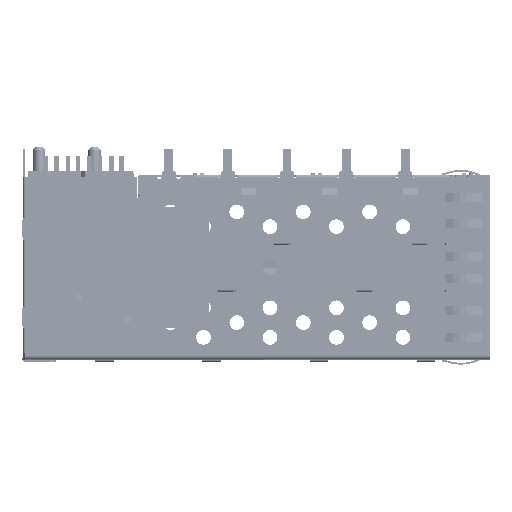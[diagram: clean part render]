
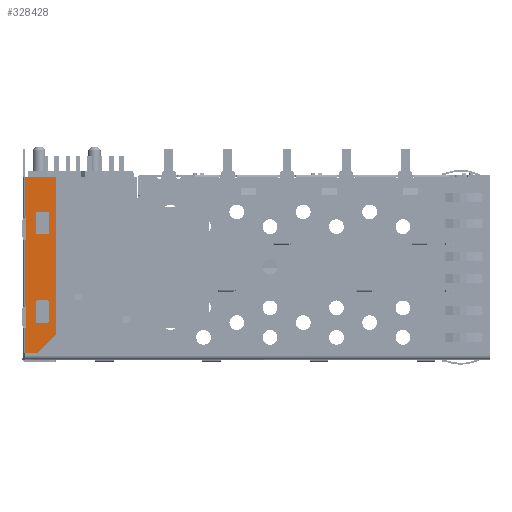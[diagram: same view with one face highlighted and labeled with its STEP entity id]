
A CAD part, left-side view. The second image highlights one B-rep face of the part: STEP entity #328428.
In plain terms, the highlighted planar face has unit normal (-1, 0, 0).
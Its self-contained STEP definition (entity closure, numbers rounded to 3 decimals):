
#43225=DIRECTION('',(0.,-1.,0.));
#43226=VECTOR('',#43225,4.25);
#43227=CARTESIAN_POINT('',(0.45,4.25,-3.8));
#43228=LINE('',#43227,#43226);
#43322=DIRECTION('',(0.,0.,1.));
#43323=VECTOR('',#43322,2.7);
#43324=CARTESIAN_POINT('',(0.45,1.,-23.4));
#43325=LINE('',#43324,#43323);
#43330=CARTESIAN_POINT('',(0.45,2.65,-20.7));
#43331=DIRECTION('',(1.,0.,0.));
#43332=DIRECTION('',(0.,1.,0.));
#43333=AXIS2_PLACEMENT_3D('',#43330,#43331,#43332);
#43335=CARTESIAN_POINT('',(0.45,2.65,-23.4));
#43336=DIRECTION('',(1.,0.,0.));
#43337=DIRECTION('',(0.,0.,-1.));
#43338=AXIS2_PLACEMENT_3D('',#43335,#43336,#43337);
#43340=CARTESIAN_POINT('',(0.45,1.15,-23.4));
#43341=DIRECTION('',(1.,0.,0.));
#43342=DIRECTION('',(0.,-1.,0.));
#43343=AXIS2_PLACEMENT_3D('',#43340,#43341,#43342);
#43345=CARTESIAN_POINT('',(0.45,1.15,-20.7));
#43346=DIRECTION('',(1.,0.,0.));
#43347=DIRECTION('',(0.,0.,1.));
#43348=AXIS2_PLACEMENT_3D('',#43345,#43346,#43347);
#43350=CARTESIAN_POINT('',(0.45,2.65,-11.4));
#43351=DIRECTION('',(1.,0.,0.));
#43352=DIRECTION('',(0.,0.,-1.));
#43353=AXIS2_PLACEMENT_3D('',#43350,#43351,#43352);
#43355=CARTESIAN_POINT('',(0.45,1.15,-11.4));
#43356=DIRECTION('',(1.,0.,0.));
#43357=DIRECTION('',(0.,-1.,0.));
#43358=AXIS2_PLACEMENT_3D('',#43355,#43356,#43357);
#43360=CARTESIAN_POINT('',(0.45,1.15,-8.7));
#43361=DIRECTION('',(1.,0.,0.));
#43362=DIRECTION('',(0.,0.,1.));
#43363=AXIS2_PLACEMENT_3D('',#43360,#43361,#43362);
#43365=CARTESIAN_POINT('',(0.45,2.65,-8.7));
#43366=DIRECTION('',(1.,0.,0.));
#43367=DIRECTION('',(0.,1.,0.));
#43368=AXIS2_PLACEMENT_3D('',#43365,#43366,#43367);
#43370=DIRECTION('',(0.,-0.707,0.707));
#43371=VECTOR('',#43370,3.536);
#43372=CARTESIAN_POINT('',(0.45,2.5,-27.6));
#43373=LINE('',#43372,#43371);
#43374=DIRECTION('',(0.,1.,0.));
#43375=VECTOR('',#43374,0.2);
#43376=CARTESIAN_POINT('',(0.45,4.05,-24.3));
#43377=LINE('',#43376,#43375);
#43390=DIRECTION('',(0.,0.,-1.));
#43391=VECTOR('',#43390,2.7);
#43392=CARTESIAN_POINT('',(0.45,2.8,-20.7));
#43393=LINE('',#43392,#43391);
#43406=DIRECTION('',(0.,-1.,0.));
#43407=VECTOR('',#43406,1.5);
#43408=CARTESIAN_POINT('',(0.45,2.65,-23.55));
#43409=LINE('',#43408,#43407);
#43414=DIRECTION('',(0.,1.,0.));
#43415=VECTOR('',#43414,1.5);
#43416=CARTESIAN_POINT('',(0.45,1.15,-20.55));
#43417=LINE('',#43416,#43415);
#43438=DIRECTION('',(0.,-1.,0.));
#43439=VECTOR('',#43438,1.5);
#43440=CARTESIAN_POINT('',(0.45,2.65,-11.55));
#43441=LINE('',#43440,#43439);
#43450=DIRECTION('',(0.,0.,1.));
#43451=VECTOR('',#43450,2.7);
#43452=CARTESIAN_POINT('',(0.45,1.,-11.4));
#43453=LINE('',#43452,#43451);
#43470=DIRECTION('',(0.,1.,0.));
#43471=VECTOR('',#43470,1.5);
#43472=CARTESIAN_POINT('',(0.45,1.15,-8.55));
#43473=LINE('',#43472,#43471);
#43486=DIRECTION('',(0.,0.,-1.));
#43487=VECTOR('',#43486,2.7);
#43488=CARTESIAN_POINT('',(0.45,2.8,-8.7));
#43489=LINE('',#43488,#43487);
#43494=DIRECTION('',(0.,0.,-1.));
#43495=VECTOR('',#43494,21.3);
#43496=CARTESIAN_POINT('',(0.45,0.,-3.8));
#43497=LINE('',#43496,#43495);
#43503=DIRECTION('',(0.,1.,0.));
#43504=VECTOR('',#43503,1.75);
#43505=CARTESIAN_POINT('',(0.45,2.5,-27.6));
#43506=LINE('',#43505,#43504);
#43523=DIRECTION('',(0.,0.,1.));
#43524=VECTOR('',#43523,3.3);
#43525=CARTESIAN_POINT('',(0.45,4.25,-27.6));
#43526=LINE('',#43525,#43524);
#43581=DIRECTION('',(0.,1.,0.));
#43582=VECTOR('',#43581,0.2);
#43583=CARTESIAN_POINT('',(0.45,4.05,-21.3));
#43584=LINE('',#43583,#43582);
#43589=DIRECTION('',(0.,0.,1.));
#43590=VECTOR('',#43589,9.);
#43591=CARTESIAN_POINT('',(0.45,4.25,-21.3));
#43592=LINE('',#43591,#43590);
#43597=DIRECTION('',(0.,-1.,0.));
#43598=VECTOR('',#43597,0.2);
#43599=CARTESIAN_POINT('',(0.45,4.25,-12.3));
#43600=LINE('',#43599,#43598);
#43614=DIRECTION('',(0.,0.,1.));
#43615=VECTOR('',#43614,3.);
#43616=CARTESIAN_POINT('',(0.45,4.05,-12.3));
#43617=LINE('',#43616,#43615);
#43631=DIRECTION('',(0.,1.,0.));
#43632=VECTOR('',#43631,0.2);
#43633=CARTESIAN_POINT('',(0.45,4.05,-9.3));
#43634=LINE('',#43633,#43632);
#43647=DIRECTION('',(0.,0.,1.));
#43648=VECTOR('',#43647,5.5);
#43649=CARTESIAN_POINT('',(0.45,4.25,-9.3));
#43650=LINE('',#43649,#43648);
#43683=DIRECTION('',(0.,0.,1.));
#43684=VECTOR('',#43683,3.);
#43685=CARTESIAN_POINT('',(0.45,4.05,-24.3));
#43686=LINE('',#43685,#43684);
#230173=CARTESIAN_POINT('',(0.45,4.25,-27.6));
#230174=VERTEX_POINT('',#230173);
#230175=CARTESIAN_POINT('',(0.45,4.25,-24.3));
#230176=VERTEX_POINT('',#230175);
#230177=CARTESIAN_POINT('',(0.45,4.05,-24.3));
#230178=VERTEX_POINT('',#230177);
#230181=CARTESIAN_POINT('',(0.45,2.5,-27.6));
#230182=CARTESIAN_POINT('',(0.45,0.,-25.1));
#230183=VERTEX_POINT('',#230181);
#230184=VERTEX_POINT('',#230182);
#230185=CARTESIAN_POINT('',(0.45,4.05,-21.3));
#230186=VERTEX_POINT('',#230185);
#230187=CARTESIAN_POINT('',(0.45,4.25,-21.3));
#230188=VERTEX_POINT('',#230187);
#230189=CARTESIAN_POINT('',(0.45,4.25,-12.3));
#230190=VERTEX_POINT('',#230189);
#230191=CARTESIAN_POINT('',(0.45,4.05,-12.3));
#230192=VERTEX_POINT('',#230191);
#230193=CARTESIAN_POINT('',(0.45,4.05,-9.3));
#230194=VERTEX_POINT('',#230193);
#230195=CARTESIAN_POINT('',(0.45,4.25,-9.3));
#230196=VERTEX_POINT('',#230195);
#230197=CARTESIAN_POINT('',(0.45,4.25,-3.8));
#230198=VERTEX_POINT('',#230197);
#230199=CARTESIAN_POINT('',(0.45,0.,-3.8));
#230200=VERTEX_POINT('',#230199);
#230201=CARTESIAN_POINT('',(0.45,2.65,-11.55));
#230202=CARTESIAN_POINT('',(0.45,1.15,-11.55));
#230203=VERTEX_POINT('',#230201);
#230204=VERTEX_POINT('',#230202);
#230205=CARTESIAN_POINT('',(0.45,1.,-11.4));
#230206=VERTEX_POINT('',#230205);
#230207=CARTESIAN_POINT('',(0.45,1.,-8.7));
#230208=VERTEX_POINT('',#230207);
#230209=CARTESIAN_POINT('',(0.45,1.15,-8.55));
#230210=VERTEX_POINT('',#230209);
#230211=CARTESIAN_POINT('',(0.45,2.65,-8.55));
#230212=VERTEX_POINT('',#230211);
#230213=CARTESIAN_POINT('',(0.45,2.8,-8.7));
#230214=VERTEX_POINT('',#230213);
#230215=CARTESIAN_POINT('',(0.45,2.8,-11.4));
#230216=VERTEX_POINT('',#230215);
#230217=CARTESIAN_POINT('',(0.45,2.8,-20.7));
#230218=CARTESIAN_POINT('',(0.45,2.8,-23.4));
#230219=VERTEX_POINT('',#230217);
#230220=VERTEX_POINT('',#230218);
#230221=CARTESIAN_POINT('',(0.45,2.65,-23.55));
#230222=VERTEX_POINT('',#230221);
#230223=CARTESIAN_POINT('',(0.45,1.15,-23.55));
#230224=VERTEX_POINT('',#230223);
#230225=CARTESIAN_POINT('',(0.45,1.,-23.4));
#230226=VERTEX_POINT('',#230225);
#230227=CARTESIAN_POINT('',(0.45,1.,-20.7));
#230228=VERTEX_POINT('',#230227);
#230229=CARTESIAN_POINT('',(0.45,1.15,-20.55));
#230230=VERTEX_POINT('',#230229);
#230231=CARTESIAN_POINT('',(0.45,2.65,-20.55));
#230232=VERTEX_POINT('',#230231);
#328362=CARTESIAN_POINT('',(0.45,4.25,-27.6));
#328363=DIRECTION('',(-1.,0.,0.));
#328364=DIRECTION('',(0.,-1.,0.));
#328365=AXIS2_PLACEMENT_3D('',#328362,#328363,#328364);
#328366=PLANE('',#328365);
#328368=ORIENTED_EDGE('',*,*,#328367,.T.);
#328370=ORIENTED_EDGE('',*,*,#328369,.F.);
#328372=ORIENTED_EDGE('',*,*,#328371,.T.);
#328374=ORIENTED_EDGE('',*,*,#328373,.T.);
#328376=ORIENTED_EDGE('',*,*,#328375,.F.);
#328378=ORIENTED_EDGE('',*,*,#328377,.T.);
#328380=ORIENTED_EDGE('',*,*,#328379,.T.);
#328382=ORIENTED_EDGE('',*,*,#328381,.T.);
#328384=ORIENTED_EDGE('',*,*,#328383,.T.);
#328386=ORIENTED_EDGE('',*,*,#328385,.T.);
#328388=ORIENTED_EDGE('',*,*,#328387,.T.);
#328390=ORIENTED_EDGE('',*,*,#328389,.T.);
#328391=ORIENTED_EDGE('',*,*,#328253,.T.);
#328392=EDGE_LOOP('',(#328368,#328370,#328372,#328374,#328376,#328378,#328380,
#328382,#328384,#328386,#328388,#328390,#328391));
#328393=FACE_OUTER_BOUND('',#328392,.F.);
#328395=ORIENTED_EDGE('',*,*,#328394,.F.);
#328397=ORIENTED_EDGE('',*,*,#328396,.T.);
#328399=ORIENTED_EDGE('',*,*,#328398,.F.);
#328401=ORIENTED_EDGE('',*,*,#328400,.T.);
#328403=ORIENTED_EDGE('',*,*,#328402,.F.);
#328405=ORIENTED_EDGE('',*,*,#328404,.T.);
#328407=ORIENTED_EDGE('',*,*,#328406,.F.);
#328409=ORIENTED_EDGE('',*,*,#328408,.T.);
#328410=EDGE_LOOP('',(#328395,#328397,#328399,#328401,#328403,#328405,#328407,
#328409));
#328411=FACE_BOUND('',#328410,.F.);
#328413=ORIENTED_EDGE('',*,*,#328412,.F.);
#328415=ORIENTED_EDGE('',*,*,#328414,.T.);
#328417=ORIENTED_EDGE('',*,*,#328416,.F.);
#328419=ORIENTED_EDGE('',*,*,#328418,.T.);
#328420=ORIENTED_EDGE('',*,*,#328341,.F.);
#328421=ORIENTED_EDGE('',*,*,#328353,.T.);
#328423=ORIENTED_EDGE('',*,*,#328422,.F.);
#328425=ORIENTED_EDGE('',*,*,#328424,.T.);
#328426=EDGE_LOOP('',(#328413,#328415,#328417,#328419,#328420,#328421,#328423,
#328425));
#328427=FACE_BOUND('',#328426,.F.);
#43334=CIRCLE('',#43333,0.15);
#43339=CIRCLE('',#43338,0.15);
#43344=CIRCLE('',#43343,0.15);
#43349=CIRCLE('',#43348,0.15);
#43354=CIRCLE('',#43353,0.15);
#43359=CIRCLE('',#43358,0.15);
#43364=CIRCLE('',#43363,0.15);
#43369=CIRCLE('',#43368,0.15);
#328253=EDGE_CURVE('',#230198,#230200,#43228,.T.);
#328341=EDGE_CURVE('',#230226,#230224,#43344,.T.);
#328353=EDGE_CURVE('',#230226,#230228,#43325,.T.);
#328367=EDGE_CURVE('',#230200,#230184,#43497,.T.);
#328369=EDGE_CURVE('',#230183,#230184,#43373,.T.);
#328371=EDGE_CURVE('',#230183,#230174,#43506,.T.);
#328373=EDGE_CURVE('',#230174,#230176,#43526,.T.);
#328375=EDGE_CURVE('',#230178,#230176,#43377,.T.);
#328377=EDGE_CURVE('',#230178,#230186,#43686,.T.);
#328379=EDGE_CURVE('',#230186,#230188,#43584,.T.);
#328381=EDGE_CURVE('',#230188,#230190,#43592,.T.);
#328383=EDGE_CURVE('',#230190,#230192,#43600,.T.);
#328385=EDGE_CURVE('',#230192,#230194,#43617,.T.);
#328387=EDGE_CURVE('',#230194,#230196,#43634,.T.);
#328389=EDGE_CURVE('',#230196,#230198,#43650,.T.);
#328394=EDGE_CURVE('',#230203,#230216,#43354,.T.);
#328396=EDGE_CURVE('',#230203,#230204,#43441,.T.);
#328398=EDGE_CURVE('',#230206,#230204,#43359,.T.);
#328400=EDGE_CURVE('',#230206,#230208,#43453,.T.);
#328402=EDGE_CURVE('',#230210,#230208,#43364,.T.);
#328404=EDGE_CURVE('',#230210,#230212,#43473,.T.);
#328406=EDGE_CURVE('',#230214,#230212,#43369,.T.);
#328408=EDGE_CURVE('',#230214,#230216,#43489,.T.);
#328412=EDGE_CURVE('',#230219,#230232,#43334,.T.);
#328414=EDGE_CURVE('',#230219,#230220,#43393,.T.);
#328416=EDGE_CURVE('',#230222,#230220,#43339,.T.);
#328418=EDGE_CURVE('',#230222,#230224,#43409,.T.);
#328422=EDGE_CURVE('',#230230,#230228,#43349,.T.);
#328424=EDGE_CURVE('',#230230,#230232,#43417,.T.);
#328428=ADVANCED_FACE('',(#328393,#328411,#328427),#328366,.T.);
